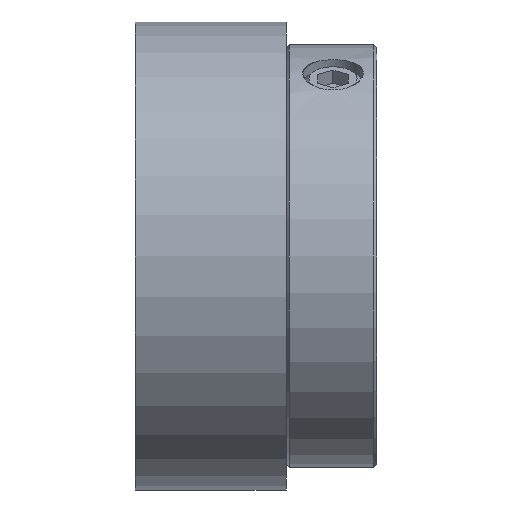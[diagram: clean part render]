
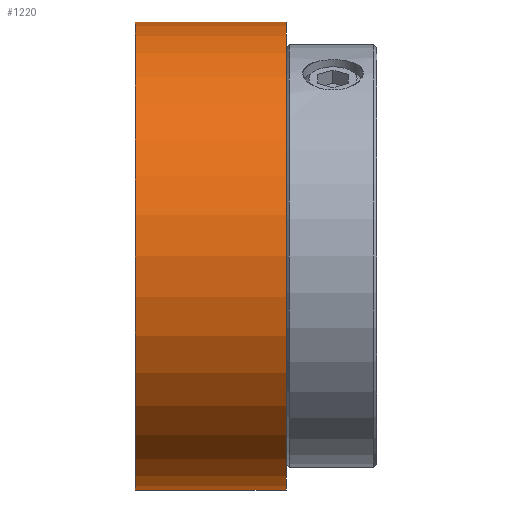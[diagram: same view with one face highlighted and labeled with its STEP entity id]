
A CAD part, front view. The second image highlights one B-rep face of the part: STEP entity #1220.
In plain terms, the highlighted cylindrical face has radius 15.5 mm (diameter 31 mm), a full revolution.
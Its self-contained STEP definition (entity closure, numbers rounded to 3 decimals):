
#93 = EDGE_CURVE ( 'NONE', #701, #701, #861, .T. ) ;
#114 = AXIS2_PLACEMENT_3D ( 'NONE', #1274, #1275, #1276 ) ;
#142 = AXIS2_PLACEMENT_3D ( 'NONE', #1034, #1035, #1033 ) ;
#194 = AXIS2_PLACEMENT_3D ( 'NONE', #371, #372, #373 ) ;
#371 = CARTESIAN_POINT ( 'NONE',  ( 9.5, 0., 0. ) ) ;
#372 = DIRECTION ( 'NONE',  ( 1., 0., 0. ) ) ;
#373 = DIRECTION ( 'NONE',  ( 0., 0., -1. ) ) ;
#439 = FACE_OUTER_BOUND ( 'NONE', #502, .T. ) ;
#442 = FACE_OUTER_BOUND ( 'NONE', #852, .T. ) ;
#444 = CYLINDRICAL_SURFACE ( 'NONE', #142, 15.5 ) ;
#502 = EDGE_LOOP ( 'NONE', ( #550 ) ) ;
#549 = ORIENTED_EDGE ( 'NONE', *, *, #1246, .T. ) ;
#550 = ORIENTED_EDGE ( 'NONE', *, *, #93, .F. ) ;
#663 = CIRCLE ( 'NONE', #114, 15.5 ) ;
#701 = VERTEX_POINT ( 'NONE', #764 ) ;
#710 = VERTEX_POINT ( 'NONE', #773 ) ;
#764 = CARTESIAN_POINT ( 'NONE',  ( 9.5, 0., -15.5 ) ) ;
#773 = CARTESIAN_POINT ( 'NONE',  ( -0.5, 0., -15.5 ) ) ;
#852 = EDGE_LOOP ( 'NONE', ( #549 ) ) ;
#861 = CIRCLE ( 'NONE', #194, 15.5 ) ;
#1033 = DIRECTION ( 'NONE',  ( 0., 0., 1. ) ) ;
#1034 = CARTESIAN_POINT ( 'NONE',  ( 9.5, 0., 0. ) ) ;
#1035 = DIRECTION ( 'NONE',  ( -1., 0., 0. ) ) ;
#1220 = ADVANCED_FACE ( 'NONE', ( #439, #442 ), #444, .T. ) ;
#1246 = EDGE_CURVE ( 'NONE', #710, #710, #663, .T. ) ;
#1274 = CARTESIAN_POINT ( 'NONE',  ( -0.5, 0., 0. ) ) ;
#1275 = DIRECTION ( 'NONE',  ( 1., 0., 0. ) ) ;
#1276 = DIRECTION ( 'NONE',  ( 0., 0., -1. ) ) ;
